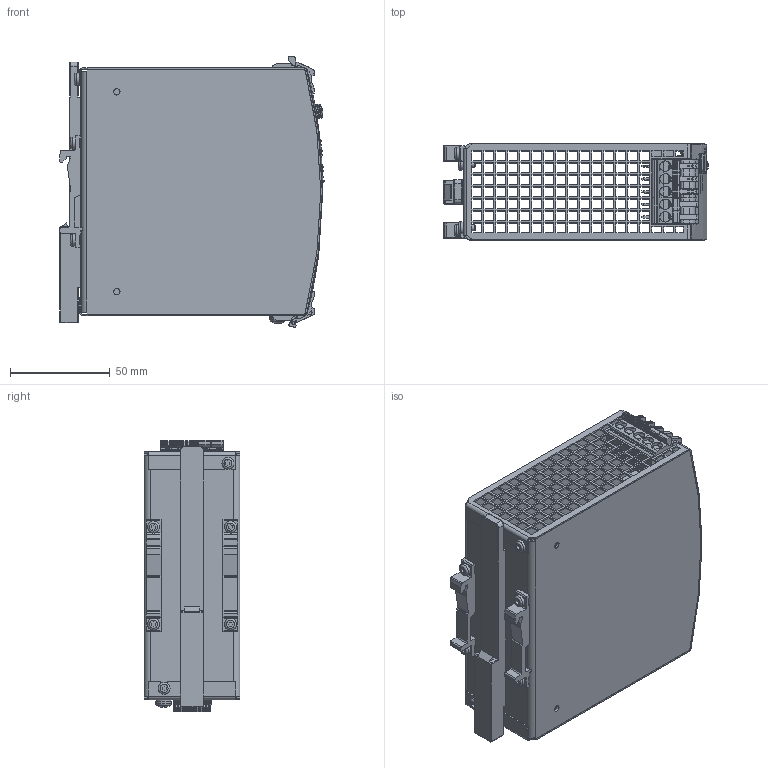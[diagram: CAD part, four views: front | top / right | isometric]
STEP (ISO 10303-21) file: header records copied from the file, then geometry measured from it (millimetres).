
FILE_DESCRIPTION(/* description */ (''),/* implementation_level */ '2;1');
FILE_NAME(/* name */ 'C:\SW-temp\426\CP20.241_S1.stp',/* time_stamp */ '2023-08-18T14:18:54+02:00',/* author */ ('Rahn'),/* organization */ (''),/* preprocessor_version */ 'ST-DEVELOPER v18.1',/* originating_system */ 'Autodesk Inventor 2020',/* authorisation */ '');
FILE_SCHEMA (('AUTOMOTIVE_DESIGN { 1 0 10303 214 3 1 1 }'));
Products named in the file (14): 426.06; HOUSING BODY 426.90; HOUSING COVER 426.11; FRONTFOIL 426.06; MKT_SPRING WASHER A4; MKT_SLIDER; MKT_T HOLDER1; MKT_SCREW 3x6; MKT_LP2BK-DC; MKT_LP3BK-DC; MKT_LED GN; MKT_POTI COVER; MKT_SCREW 4x8; MKT_LP2SW-R6
Assembly tree (21 placements, depth 2):
  426.06
    HOUSING BODY 426.90
    HOUSING COVER 426.11
    FRONTFOIL 426.06
    MKT_SPRING WASHER A4
    MKT_SLIDER
    MKT_T HOLDER1  x2
    MKT_SCREW 3x6  x6
    MKT_LP3BK-DC  x2
    MKT_LP2BK-DC
    MKT_LP2SW-R6  x2
    MKT_LED GN
    MKT_POTI COVER
    MKT_SCREW 4x8
Bounding box: 132.2 x 48 x 135.65 mm (x, y, z)
Volume: 92143.2 mm3; surface area: 126073.7 mm2
Topology: 22 solids, 130 shells, 5095 faces, 14069 edges, 9356 vertices
Faces by surface type: plane 3438, cylinder 1053, bspline 279, torus 169, cone 101, sphere 55
Full cylindrical faces by diameter (mm): 0.3 x10, 1.5 x6, 2.2 x8, 2.45 x2, 2.7 x1, 3 x6, 3.1 x4, 3.2 x3, 3.621 x1, 4 x1, 4.355 x1, 4.5 x1, 4.6 x1, 6 x6
Entity records: 130139 total; most frequent: CARTESIAN_POINT 33626, ORIENTED_EDGE 20478, DIRECTION 18419, EDGE_CURVE 10239, LINE 7405, VECTOR 7405, VERTEX_POINT 6813, AXIS2_PLACEMENT_3D 5507
